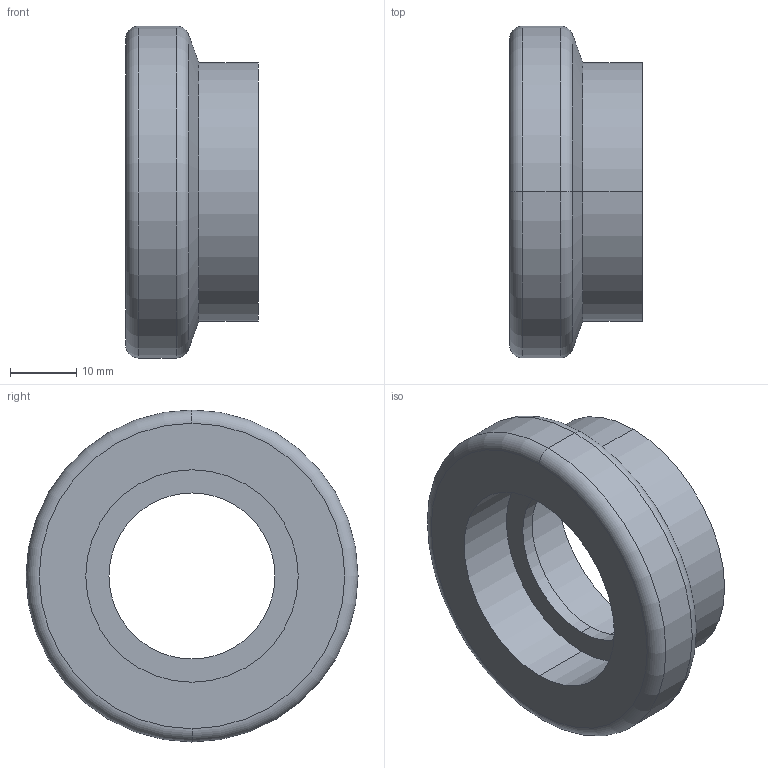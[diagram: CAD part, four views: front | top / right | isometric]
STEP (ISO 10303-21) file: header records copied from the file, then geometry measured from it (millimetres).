
FILE_DESCRIPTION (( 'STEP AP203' ), '1' );
FILE_NAME ('084.821.103.STEP', '2018-03-09T15:50:34', ( '' ), ( '' ), 'SwSTEP 2.0', 'SolidWorks 2016', '' );
FILE_SCHEMA (( 'CONFIG_CONTROL_DESIGN' ));
Length unit declared in the file: millimetre
Products named in the file (1): 084.821.103
Bounding box: 20 x 50 x 50 mm (x, y, z)
Volume: 15905.1 mm3; surface area: 7283.4 mm2
Topology: 1 solids, 1 shells, 20 faces, 40 edges, 24 vertices
Faces by surface type: cylinder 10, torus 4, plane 4, cone 2
Entity records: 609 total; most frequent: DIRECTION 110, CARTESIAN_POINT 85, ORIENTED_EDGE 80, AXIS2_PLACEMENT_3D 49, EDGE_CURVE 40, CIRCLE 28, VERTEX_POINT 24, EDGE_LOOP 24
